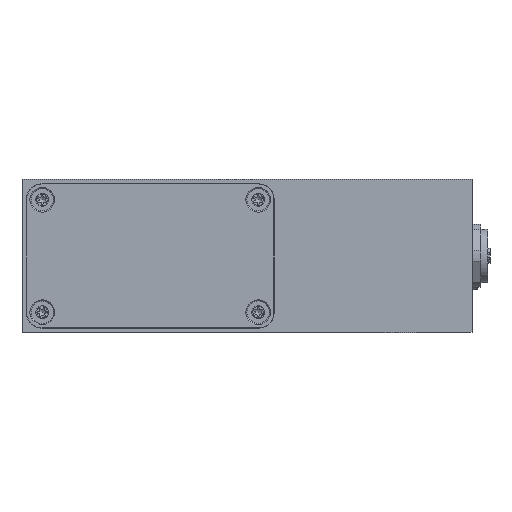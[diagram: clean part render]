
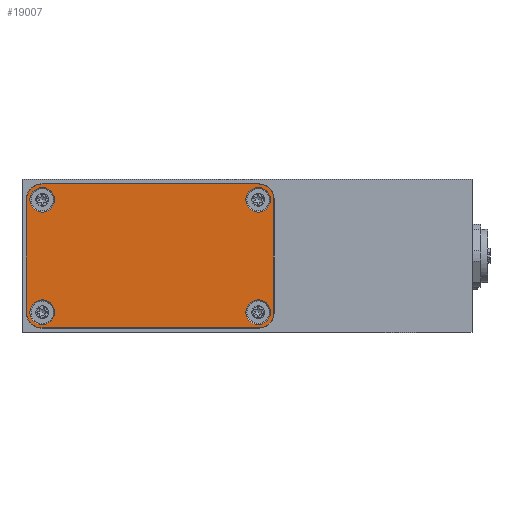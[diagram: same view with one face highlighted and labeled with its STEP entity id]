
A CAD part, front view. The second image highlights one B-rep face of the part: STEP entity #19007.
In plain terms, the highlighted planar face has unit normal (0, -1, 0).
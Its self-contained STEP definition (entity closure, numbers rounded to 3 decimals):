
#1130=FACE_BOUND($,#5681,.T.);
#1131=FACE_BOUND($,#5682,.T.);
#1132=FACE_BOUND($,#5683,.T.);
#1133=FACE_BOUND($,#5684,.T.);
#1134=FACE_BOUND($,#5685,.T.);
#1876=LINE($,#32561,#2952);
#1877=LINE($,#32565,#2953);
#1878=LINE($,#32569,#2954);
#1879=LINE($,#32573,#2955);
#2952=VECTOR($,#24308,48.);
#2953=VECTOR($,#24311,25.);
#2954=VECTOR($,#24314,48.);
#2955=VECTOR($,#24317,25.);
#5681=EDGE_LOOP($,(#14842));
#5682=EDGE_LOOP($,(#14843));
#5683=EDGE_LOOP($,(#14844));
#5684=EDGE_LOOP($,(#14845));
#5685=EDGE_LOOP($,(#14846,#14847,#14848,#14849,#14850,#14851,#14852,#14853));
#6687=CIRCLE($,#20613,2.75);
#6688=CIRCLE($,#20614,2.75);
#6689=CIRCLE($,#20615,2.75);
#6690=CIRCLE($,#20616,2.75);
#6691=CIRCLE($,#20617,3.5);
#6692=CIRCLE($,#20618,3.5);
#6693=CIRCLE($,#20619,3.5);
#6694=CIRCLE($,#20620,3.5);
#8137=VERTEX_POINT($,#32551);
#8138=VERTEX_POINT($,#32553);
#8139=VERTEX_POINT($,#32555);
#8140=VERTEX_POINT($,#32557);
#8141=VERTEX_POINT($,#32559);
#8142=VERTEX_POINT($,#32560);
#8143=VERTEX_POINT($,#32562);
#8144=VERTEX_POINT($,#32564);
#8145=VERTEX_POINT($,#32566);
#8146=VERTEX_POINT($,#32568);
#8147=VERTEX_POINT($,#32570);
#8148=VERTEX_POINT($,#32572);
#10519=EDGE_CURVE($,#8137,#8137,#6687,.T.);
#10520=EDGE_CURVE($,#8138,#8138,#6688,.T.);
#10521=EDGE_CURVE($,#8139,#8139,#6689,.T.);
#10522=EDGE_CURVE($,#8140,#8140,#6690,.T.);
#10523=EDGE_CURVE($,#8141,#8142,#1876,.T.);
#10524=EDGE_CURVE($,#8143,#8141,#6691,.T.);
#10525=EDGE_CURVE($,#8144,#8143,#1877,.T.);
#10526=EDGE_CURVE($,#8145,#8144,#6692,.T.);
#10527=EDGE_CURVE($,#8146,#8145,#1878,.T.);
#10528=EDGE_CURVE($,#8147,#8146,#6693,.T.);
#10529=EDGE_CURVE($,#8148,#8147,#1879,.T.);
#10530=EDGE_CURVE($,#8142,#8148,#6694,.T.);
#14842=ORIENTED_EDGE($,*,*,#10519,.T.);
#14843=ORIENTED_EDGE($,*,*,#10520,.T.);
#14844=ORIENTED_EDGE($,*,*,#10521,.T.);
#14845=ORIENTED_EDGE($,*,*,#10522,.T.);
#14846=ORIENTED_EDGE($,*,*,#10523,.F.);
#14847=ORIENTED_EDGE($,*,*,#10524,.F.);
#14848=ORIENTED_EDGE($,*,*,#10525,.F.);
#14849=ORIENTED_EDGE($,*,*,#10526,.F.);
#14850=ORIENTED_EDGE($,*,*,#10527,.F.);
#14851=ORIENTED_EDGE($,*,*,#10528,.F.);
#14852=ORIENTED_EDGE($,*,*,#10529,.F.);
#14853=ORIENTED_EDGE($,*,*,#10530,.F.);
#17121=PLANE($,#20612);
#19007=ADVANCED_FACE($,(#1130,#1131,#1132,#1133,#1134),#17121,.T.);
#20612=AXIS2_PLACEMENT_3D($,#32550,#24298,#24299);
#20613=AXIS2_PLACEMENT_3D($,#32552,#24300,#24301);
#20614=AXIS2_PLACEMENT_3D($,#32554,#24302,#24303);
#20615=AXIS2_PLACEMENT_3D($,#32556,#24304,#24305);
#20616=AXIS2_PLACEMENT_3D($,#32558,#24306,#24307);
#20617=AXIS2_PLACEMENT_3D($,#32563,#24309,#24310);
#20618=AXIS2_PLACEMENT_3D($,#32567,#24312,#24313);
#20619=AXIS2_PLACEMENT_3D($,#32571,#24315,#24316);
#20620=AXIS2_PLACEMENT_3D($,#32574,#24318,#24319);
#24298=DIRECTION('center_axis',(0.,-1.,0.));
#24299=DIRECTION('ref_axis',(1.,0.,0.));
#24300=DIRECTION('center_axis',(0.,1.,0.));
#24301=DIRECTION('ref_axis',(1.,0.,0.));
#24302=DIRECTION('center_axis',(0.,1.,0.));
#24303=DIRECTION('ref_axis',(1.,0.,0.));
#24304=DIRECTION('center_axis',(0.,1.,0.));
#24305=DIRECTION('ref_axis',(1.,0.,0.));
#24306=DIRECTION('center_axis',(0.,1.,0.));
#24307=DIRECTION('ref_axis',(1.,0.,0.));
#24308=DIRECTION($,(1.,0.,0.));
#24309=DIRECTION('center_axis',(0.,1.,0.));
#24310=DIRECTION('ref_axis',(0.,0.,-1.));
#24311=DIRECTION($,(0.,0.,1.));
#24312=DIRECTION('center_axis',(0.,1.,0.));
#24313=DIRECTION('ref_axis',(1.,0.,0.));
#24314=DIRECTION($,(-1.,0.,0.));
#24315=DIRECTION('center_axis',(0.,1.,0.));
#24316=DIRECTION('ref_axis',(0.,0.,1.));
#24317=DIRECTION($,(0.,0.,-1.));
#24318=DIRECTION('center_axis',(0.,1.,0.));
#24319=DIRECTION('ref_axis',(-1.,0.,0.));
#32550=CARTESIAN_POINT('Origin',(-21.5,-174.9,17.));
#32551=CARTESIAN_POINT('',(5.25,-174.9,4.5));
#32552=CARTESIAN_POINT('Origin',(2.5,-174.9,4.5));
#32553=CARTESIAN_POINT('',(-42.75,-174.9,29.5));
#32554=CARTESIAN_POINT('Origin',(-45.5,-174.9,29.5));
#32555=CARTESIAN_POINT('',(-42.75,-174.9,4.5));
#32556=CARTESIAN_POINT('Origin',(-45.5,-174.9,4.5));
#32557=CARTESIAN_POINT('',(5.25,-174.9,29.5));
#32558=CARTESIAN_POINT('Origin',(2.5,-174.9,29.5));
#32559=CARTESIAN_POINT('',(-45.5,-174.9,33.));
#32560=CARTESIAN_POINT('',(2.5,-174.9,33.));
#32561=CARTESIAN_POINT($,(-45.5,-174.9,33.));
#32562=CARTESIAN_POINT('',(-49.,-174.9,29.5));
#32563=CARTESIAN_POINT('Origin',(-45.5,-174.9,29.5));
#32564=CARTESIAN_POINT('',(-49.,-174.9,4.5));
#32565=CARTESIAN_POINT($,(-49.,-174.9,4.5));
#32566=CARTESIAN_POINT('',(-45.5,-174.9,1.));
#32567=CARTESIAN_POINT('Origin',(-45.5,-174.9,4.5));
#32568=CARTESIAN_POINT('',(2.5,-174.9,1.));
#32569=CARTESIAN_POINT($,(2.5,-174.9,1.));
#32570=CARTESIAN_POINT('',(6.,-174.9,4.5));
#32571=CARTESIAN_POINT('Origin',(2.5,-174.9,4.5));
#32572=CARTESIAN_POINT('',(6.,-174.9,29.5));
#32573=CARTESIAN_POINT($,(6.,-174.9,29.5));
#32574=CARTESIAN_POINT('Origin',(2.5,-174.9,29.5));
